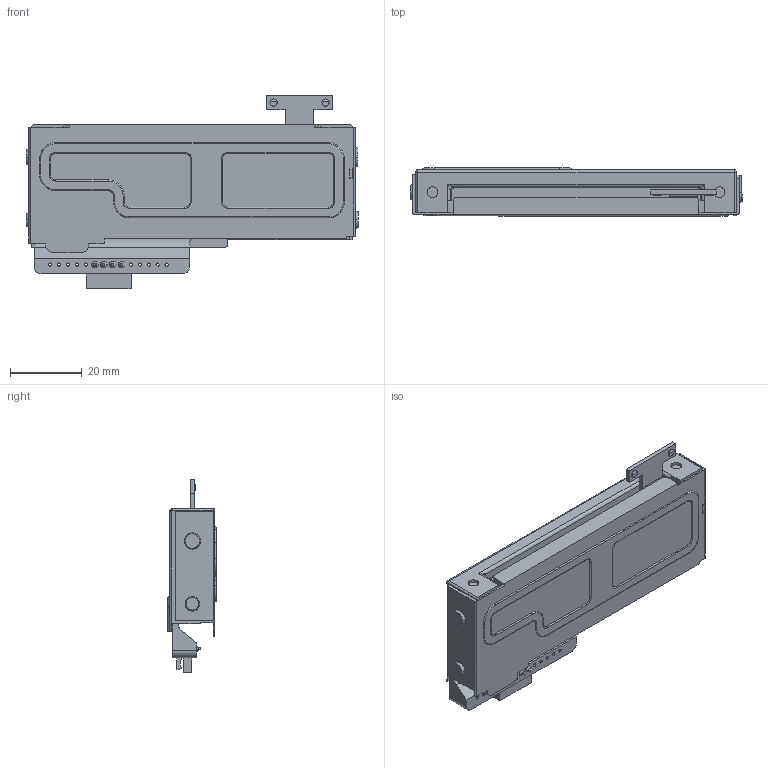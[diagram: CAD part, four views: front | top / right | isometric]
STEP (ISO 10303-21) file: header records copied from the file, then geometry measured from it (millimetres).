
FILE_DESCRIPTION (( 'STEP AP214' ), '1' );
FILE_NAME ('RS60K11K9A13.STEP', '2012-12-14T07:37:37', ( '' ), ( '' ), 'SwSTEP 2.0', 'SolidWorks 2010', '' );
FILE_SCHEMA (( 'AUTOMOTIVE_DESIGN' ));
Length unit declared in the file: millimetre
Products named in the file (1): RS60K11K9A13
Bounding box: 92.6 x 13.4 x 53.9 mm (x, y, z)
Volume: 38494 mm3; surface area: 11699.8 mm2
Topology: 1 solids, 1 shells, 295 faces, 782 edges, 511 vertices
Faces by surface type: plane 158, cylinder 93, bspline 28, cone 16
Entity records: 13398 total; most frequent: CARTESIAN_POINT 2809, ORIENTED_EDGE 1560, DIRECTION 1467, EDGE_CURVE 780, VERTEX_POINT 511, LINE 491, VECTOR 491, AXIS2_PLACEMENT_3D 488
